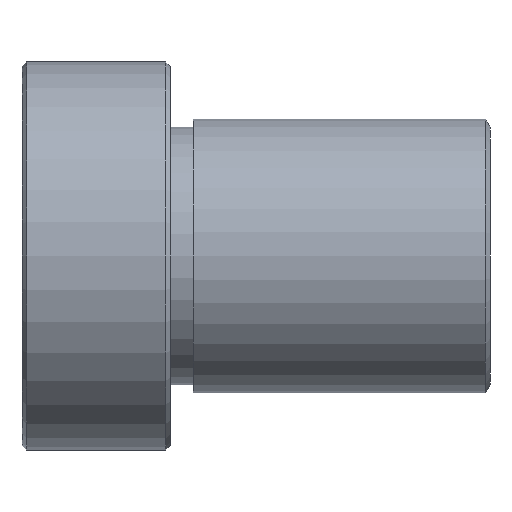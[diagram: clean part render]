
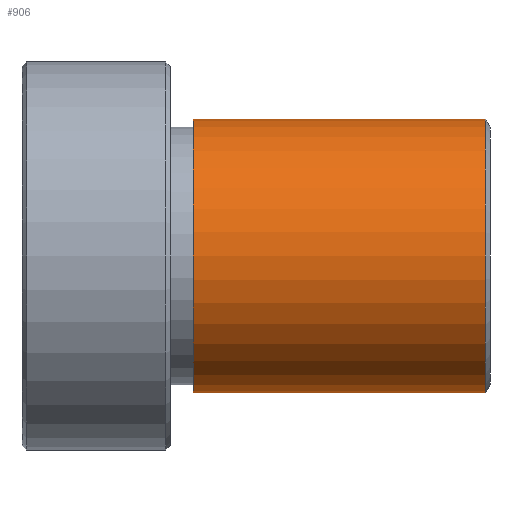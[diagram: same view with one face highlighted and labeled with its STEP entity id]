
A CAD part, front view. The second image highlights one B-rep face of the part: STEP entity #906.
In plain terms, the highlighted cylindrical face has radius 6 mm (diameter 12 mm), a partial arc.
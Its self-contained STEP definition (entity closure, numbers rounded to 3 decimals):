
#4 = VECTOR ( 'NONE', #664, 1000. ) ;
#18 = EDGE_CURVE ( 'NONE', #1399, #857, #890, .T. ) ;
#58 = CARTESIAN_POINT ( 'NONE',  ( -28.018, 0., 0. ) ) ;
#101 = EDGE_LOOP ( 'NONE', ( #1309, #1060, #427, #1444 ) ) ;
#179 = CARTESIAN_POINT ( 'NONE',  ( -6.22, 0., 6. ) ) ;
#205 = VECTOR ( 'NONE', #399, 1000. ) ;
#234 = CARTESIAN_POINT ( 'NONE',  ( -19.018, 0., 0. ) ) ;
#293 = CARTESIAN_POINT ( 'NONE',  ( -6.22, 0., -6. ) ) ;
#368 = VERTEX_POINT ( 'NONE', #293 ) ;
#399 = DIRECTION ( 'NONE',  ( -1., 0., 0. ) ) ;
#421 = CARTESIAN_POINT ( 'NONE',  ( -28.018, 0., -6. ) ) ;
#427 = ORIENTED_EDGE ( 'NONE', *, *, #18, .T. ) ;
#429 = CARTESIAN_POINT ( 'NONE',  ( -6.22, 0., 0. ) ) ;
#469 = CIRCLE ( 'NONE', #1360, 6. ) ;
#539 = DIRECTION ( 'NONE',  ( 0., 0., 1. ) ) ;
#597 = VERTEX_POINT ( 'NONE', #703 ) ;
#664 = DIRECTION ( 'NONE',  ( -1., 0., 0. ) ) ;
#683 = DIRECTION ( 'NONE',  ( -1., 0., 0. ) ) ;
#698 = FACE_OUTER_BOUND ( 'NONE', #101, .T. ) ;
#703 = CARTESIAN_POINT ( 'NONE',  ( -19.018, 0., -6. ) ) ;
#757 = DIRECTION ( 'NONE',  ( -1., 0., 0. ) ) ;
#857 = VERTEX_POINT ( 'NONE', #1263 ) ;
#877 = AXIS2_PLACEMENT_3D ( 'NONE', #58, #683, #937 ) ;
#890 = LINE ( 'NONE', #1273, #205 ) ;
#900 = AXIS2_PLACEMENT_3D ( 'NONE', #429, #1439, #539 ) ;
#906 = ADVANCED_FACE ( 'NONE', ( #698 ), #1282, .T. ) ;
#937 = DIRECTION ( 'NONE',  ( 0., 0., 1. ) ) ;
#1060 = ORIENTED_EDGE ( 'NONE', *, *, #1379, .T. ) ;
#1141 = LINE ( 'NONE', #421, #4 ) ;
#1235 = CIRCLE ( 'NONE', #900, 6. ) ;
#1247 = DIRECTION ( 'NONE',  ( 0., 0., 1. ) ) ;
#1263 = CARTESIAN_POINT ( 'NONE',  ( -19.018, 0., 6. ) ) ;
#1273 = CARTESIAN_POINT ( 'NONE',  ( -28.018, 0., 6. ) ) ;
#1282 = CYLINDRICAL_SURFACE ( 'NONE', #877, 6. ) ;
#1309 = ORIENTED_EDGE ( 'NONE', *, *, #1403, .F. ) ;
#1360 = AXIS2_PLACEMENT_3D ( 'NONE', #234, #757, #1247 ) ;
#1379 = EDGE_CURVE ( 'NONE', #368, #1399, #1235, .T. ) ;
#1399 = VERTEX_POINT ( 'NONE', #179 ) ;
#1403 = EDGE_CURVE ( 'NONE', #368, #597, #1141, .T. ) ;
#1439 = DIRECTION ( 'NONE',  ( -1., 0., 0. ) ) ;
#1444 = ORIENTED_EDGE ( 'NONE', *, *, #1504, .F. ) ;
#1504 = EDGE_CURVE ( 'NONE', #597, #857, #469, .T. ) ;
